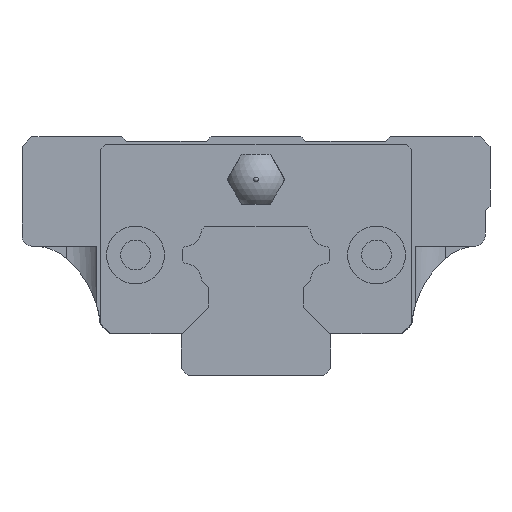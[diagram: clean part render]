
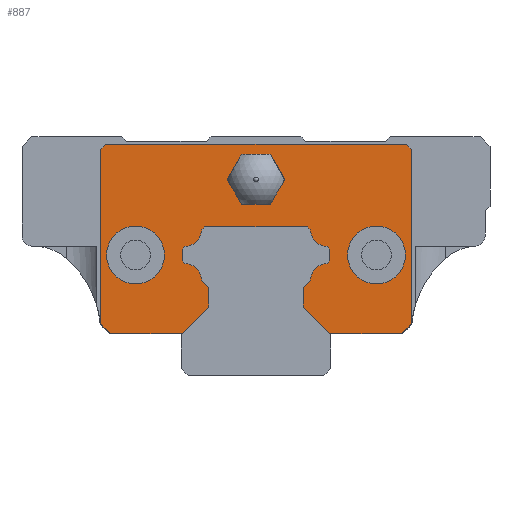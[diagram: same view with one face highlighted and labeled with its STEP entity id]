
A CAD part, front view. The second image highlights one B-rep face of the part: STEP entity #887.
In plain terms, the highlighted planar face has unit normal (0, -1, 0).
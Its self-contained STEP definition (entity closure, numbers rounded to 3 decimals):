
#215=PLANE('',#2910);
#363=LINE('',#4071,#635);
#367=LINE('',#4079,#639);
#370=LINE('',#4085,#642);
#373=LINE('',#4091,#645);
#377=LINE('',#4103,#649);
#380=LINE('',#4109,#652);
#383=LINE('',#4115,#655);
#387=LINE('',#4127,#659);
#390=LINE('',#4133,#662);
#393=LINE('',#4139,#665);
#397=LINE('',#4151,#669);
#400=LINE('',#4157,#672);
#403=LINE('',#4163,#675);
#407=LINE('',#4175,#679);
#410=LINE('',#4181,#682);
#413=LINE('',#4187,#685);
#418=LINE('',#4196,#690);
#440=LINE('',#4268,#712);
#442=LINE('',#4272,#714);
#444=LINE('',#4276,#716);
#446=LINE('',#4280,#718);
#448=LINE('',#4284,#720);
#449=LINE('',#4286,#721);
#451=LINE('',#4290,#723);
#635=VECTOR('',#3254,1.);
#639=VECTOR('',#3260,1.);
#642=VECTOR('',#3265,1.);
#645=VECTOR('',#3270,1.);
#649=VECTOR('',#3282,1.);
#652=VECTOR('',#3287,1.);
#655=VECTOR('',#3292,1.);
#659=VECTOR('',#3304,1.);
#662=VECTOR('',#3309,1.);
#665=VECTOR('',#3314,1.);
#669=VECTOR('',#3326,1.);
#672=VECTOR('',#3331,1.);
#675=VECTOR('',#3336,1.);
#679=VECTOR('',#3348,1.);
#682=VECTOR('',#3353,1.);
#685=VECTOR('',#3358,1.);
#690=VECTOR('',#3365,1.);
#712=VECTOR('',#3449,1.);
#714=VECTOR('',#3453,1.);
#716=VECTOR('',#3457,1.);
#718=VECTOR('',#3461,1.);
#720=VECTOR('',#3465,1.);
#721=VECTOR('',#3468,1.);
#723=VECTOR('',#3472,1.);
#887=ADVANCED_FACE('',(#1094,#1095,#1031),#215,.F.);
#1031=FACE_OUTER_BOUND('',#1240,.T.);
#1094=FACE_BOUND('',#1238,.T.);
#1095=FACE_BOUND('',#1239,.T.);
#1238=EDGE_LOOP('',(#1779));
#1239=EDGE_LOOP('',(#1780));
#1240=EDGE_LOOP('',(#1781,#1782,#1783,#1784,#1785,#1786,#1787,#1788,#1789,
#1790,#1791,#1792,#1793,#1794,#1795,#1796,#1797,#1798,#1799,#1800,#1801,
#1802,#1803,#1804,#1805,#1806,#1807,#1808));
#1779=ORIENTED_EDGE('',*,*,#2574,.F.);
#1780=ORIENTED_EDGE('',*,*,#2575,.F.);
#1781=ORIENTED_EDGE('',*,*,#2562,.F.);
#1782=ORIENTED_EDGE('',*,*,#2573,.T.);
#1783=ORIENTED_EDGE('',*,*,#2571,.T.);
#1784=ORIENTED_EDGE('',*,*,#2531,.T.);
#1785=ORIENTED_EDGE('',*,*,#2526,.T.);
#1786=ORIENTED_EDGE('',*,*,#2523,.F.);
#1787=ORIENTED_EDGE('',*,*,#2520,.F.);
#1788=ORIENTED_EDGE('',*,*,#2517,.T.);
#1789=ORIENTED_EDGE('',*,*,#2514,.F.);
#1790=ORIENTED_EDGE('',*,*,#2511,.F.);
#1791=ORIENTED_EDGE('',*,*,#2508,.T.);
#1792=ORIENTED_EDGE('',*,*,#2505,.T.);
#1793=ORIENTED_EDGE('',*,*,#2502,.T.);
#1794=ORIENTED_EDGE('',*,*,#2499,.T.);
#1795=ORIENTED_EDGE('',*,*,#2496,.F.);
#1796=ORIENTED_EDGE('',*,*,#2493,.T.);
#1797=ORIENTED_EDGE('',*,*,#2490,.F.);
#1798=ORIENTED_EDGE('',*,*,#2487,.T.);
#1799=ORIENTED_EDGE('',*,*,#2484,.T.);
#1800=ORIENTED_EDGE('',*,*,#2481,.T.);
#1801=ORIENTED_EDGE('',*,*,#2478,.T.);
#1802=ORIENTED_EDGE('',*,*,#2475,.T.);
#1803=ORIENTED_EDGE('',*,*,#2472,.F.);
#1804=ORIENTED_EDGE('',*,*,#2468,.T.);
#1805=ORIENTED_EDGE('',*,*,#2570,.T.);
#1806=ORIENTED_EDGE('',*,*,#2568,.F.);
#1807=ORIENTED_EDGE('',*,*,#2566,.F.);
#1808=ORIENTED_EDGE('',*,*,#2564,.F.);
#2175=VERTEX_POINT('',#4070);
#2176=VERTEX_POINT('',#4072);
#2179=VERTEX_POINT('',#4080);
#2181=VERTEX_POINT('',#4086);
#2183=VERTEX_POINT('',#4092);
#2185=VERTEX_POINT('',#4098);
#2187=VERTEX_POINT('',#4104);
#2189=VERTEX_POINT('',#4110);
#2191=VERTEX_POINT('',#4116);
#2193=VERTEX_POINT('',#4122);
#2195=VERTEX_POINT('',#4128);
#2197=VERTEX_POINT('',#4134);
#2199=VERTEX_POINT('',#4140);
#2201=VERTEX_POINT('',#4146);
#2203=VERTEX_POINT('',#4152);
#2205=VERTEX_POINT('',#4158);
#2207=VERTEX_POINT('',#4164);
#2209=VERTEX_POINT('',#4170);
#2211=VERTEX_POINT('',#4176);
#2213=VERTEX_POINT('',#4182);
#2215=VERTEX_POINT('',#4188);
#2218=VERTEX_POINT('',#4197);
#2232=VERTEX_POINT('',#4267);
#2233=VERTEX_POINT('',#4269);
#2234=VERTEX_POINT('',#4273);
#2235=VERTEX_POINT('',#4277);
#2236=VERTEX_POINT('',#4281);
#2237=VERTEX_POINT('',#4287);
#2238=VERTEX_POINT('',#4293);
#2239=VERTEX_POINT('',#4295);
#2468=EDGE_CURVE('',#2176,#2175,#363,.T.);
#2472=EDGE_CURVE('',#2176,#2179,#367,.T.);
#2475=EDGE_CURVE('',#2181,#2179,#370,.T.);
#2478=EDGE_CURVE('',#2183,#2181,#373,.T.);
#2481=EDGE_CURVE('',#2185,#2183,#2718,.T.);
#2484=EDGE_CURVE('',#2187,#2185,#377,.T.);
#2487=EDGE_CURVE('',#2189,#2187,#380,.T.);
#2490=EDGE_CURVE('',#2189,#2191,#383,.T.);
#2493=EDGE_CURVE('',#2193,#2191,#2720,.T.);
#2496=EDGE_CURVE('',#2193,#2195,#387,.T.);
#2499=EDGE_CURVE('',#2197,#2195,#390,.T.);
#2502=EDGE_CURVE('',#2199,#2197,#393,.T.);
#2505=EDGE_CURVE('',#2201,#2199,#2722,.T.);
#2508=EDGE_CURVE('',#2203,#2201,#397,.T.);
#2511=EDGE_CURVE('',#2203,#2205,#400,.T.);
#2514=EDGE_CURVE('',#2205,#2207,#403,.T.);
#2517=EDGE_CURVE('',#2209,#2207,#2724,.T.);
#2520=EDGE_CURVE('',#2209,#2211,#407,.T.);
#2523=EDGE_CURVE('',#2211,#2213,#410,.T.);
#2526=EDGE_CURVE('',#2215,#2213,#413,.T.);
#2531=EDGE_CURVE('',#2218,#2215,#418,.T.);
#2562=EDGE_CURVE('',#2232,#2233,#440,.T.);
#2564=EDGE_CURVE('',#2233,#2234,#442,.T.);
#2566=EDGE_CURVE('',#2234,#2235,#444,.T.);
#2568=EDGE_CURVE('',#2235,#2236,#446,.T.);
#2570=EDGE_CURVE('',#2175,#2236,#448,.T.);
#2571=EDGE_CURVE('',#2237,#2218,#449,.T.);
#2573=EDGE_CURVE('',#2232,#2237,#451,.T.);
#2574=EDGE_CURVE('',#2238,#2238,#2734,.T.);
#2575=EDGE_CURVE('',#2239,#2239,#2735,.T.);
#2718=CIRCLE('',#2846,1.8);
#2720=CIRCLE('',#2852,1.8);
#2722=CIRCLE('',#2858,1.8);
#2724=CIRCLE('',#2864,1.8);
#2734=CIRCLE('',#2908,2.9);
#2735=CIRCLE('',#2909,2.9);
#2846=AXIS2_PLACEMENT_3D('',#4097,#3275,#3276);
#2852=AXIS2_PLACEMENT_3D('',#4121,#3297,#3298);
#2858=AXIS2_PLACEMENT_3D('',#4145,#3319,#3320);
#2864=AXIS2_PLACEMENT_3D('',#4169,#3341,#3342);
#2908=AXIS2_PLACEMENT_3D('',#4292,#3475,#3476);
#2909=AXIS2_PLACEMENT_3D('',#4294,#3477,#3478);
#2910=AXIS2_PLACEMENT_3D('',#4296,#3479,#3480);
#3254=DIRECTION('',(1.,0.,0.));
#3260=DIRECTION('',(-0.707,0.,0.707));
#3265=DIRECTION('',(0.,0.,-1.));
#3270=DIRECTION('',(-0.707,0.,-0.707));
#3275=DIRECTION('',(0.,-1.,0.));
#3276=DIRECTION('',(1.,0.,0.));
#3282=DIRECTION('',(-0.707,0.,-0.707));
#3287=DIRECTION('',(0.,0.,-1.));
#3292=DIRECTION('',(-0.707,0.,0.707));
#3297=DIRECTION('',(0.,-1.,0.));
#3298=DIRECTION('',(1.,0.,0.));
#3304=DIRECTION('',(-0.707,0.,0.707));
#3309=DIRECTION('',(1.,0.,0.));
#3314=DIRECTION('',(0.707,0.,0.707));
#3319=DIRECTION('',(0.,-1.,0.));
#3320=DIRECTION('',(1.,0.,0.));
#3326=DIRECTION('',(0.707,0.,0.707));
#3331=DIRECTION('',(0.,0.,-1.));
#3336=DIRECTION('',(0.707,0.,-0.707));
#3341=DIRECTION('',(0.,-1.,0.));
#3342=DIRECTION('',(1.,0.,0.));
#3348=DIRECTION('',(0.707,0.,-0.707));
#3353=DIRECTION('',(0.,0.,-1.));
#3358=DIRECTION('',(0.707,0.,0.707));
#3365=DIRECTION('',(1.,0.,0.));
#3449=DIRECTION('',(0.707,0.,0.707));
#3453=DIRECTION('',(1.,0.,0.));
#3457=DIRECTION('',(0.707,0.,-0.707));
#3461=DIRECTION('',(0.,0.,-1.));
#3465=DIRECTION('',(0.707,0.,0.707));
#3468=DIRECTION('',(0.707,0.,-0.707));
#3472=DIRECTION('',(0.,0.,-1.));
#3475=DIRECTION('',(0.,-1.,0.));
#3476=DIRECTION('',(0.,0.,-1.));
#3477=DIRECTION('',(0.,-1.,0.));
#3478=DIRECTION('',(0.,0.,-1.));
#3479=DIRECTION('',(0.,1.,0.));
#3480=DIRECTION('',(0.,0.,-1.));
#4070=CARTESIAN_POINT('',(14.6,-43.6,-19.65));
#4071=CARTESIAN_POINT('',(7.401,-43.6,-19.65));
#4072=CARTESIAN_POINT('',(7.401,-43.6,-19.65));
#4079=CARTESIAN_POINT('',(7.401,-43.6,-19.65));
#4080=CARTESIAN_POINT('',(4.73,-43.6,-16.979));
#4085=CARTESIAN_POINT('',(4.73,-43.6,-15.021));
#4086=CARTESIAN_POINT('',(4.73,-43.6,-15.021));
#4091=CARTESIAN_POINT('',(5.447,-43.6,-14.304));
#4092=CARTESIAN_POINT('',(5.447,-43.6,-14.304));
#4097=CARTESIAN_POINT('',(7.245,-43.6,-14.395));
#4098=CARTESIAN_POINT('',(7.154,-43.6,-12.597));
#4103=CARTESIAN_POINT('',(7.43,-43.6,-12.321));
#4104=CARTESIAN_POINT('',(7.43,-43.6,-12.321));
#4109=CARTESIAN_POINT('',(7.43,-43.6,-11.179));
#4110=CARTESIAN_POINT('',(7.43,-43.6,-11.179));
#4115=CARTESIAN_POINT('',(7.43,-43.6,-11.179));
#4116=CARTESIAN_POINT('',(7.154,-43.6,-10.903));
#4121=CARTESIAN_POINT('',(7.245,-43.6,-9.105));
#4122=CARTESIAN_POINT('',(5.447,-43.6,-9.196));
#4127=CARTESIAN_POINT('',(5.447,-43.6,-9.196));
#4128=CARTESIAN_POINT('',(5.171,-43.6,-8.92));
#4133=CARTESIAN_POINT('',(-5.171,-43.6,-8.92));
#4134=CARTESIAN_POINT('',(-5.171,-43.6,-8.92));
#4139=CARTESIAN_POINT('',(-5.447,-43.6,-9.196));
#4140=CARTESIAN_POINT('',(-5.447,-43.6,-9.196));
#4145=CARTESIAN_POINT('',(-7.245,-43.6,-9.105));
#4146=CARTESIAN_POINT('',(-7.154,-43.6,-10.903));
#4151=CARTESIAN_POINT('',(-7.43,-43.6,-11.179));
#4152=CARTESIAN_POINT('',(-7.43,-43.6,-11.179));
#4157=CARTESIAN_POINT('',(-7.43,-43.6,-11.179));
#4158=CARTESIAN_POINT('',(-7.43,-43.6,-12.321));
#4163=CARTESIAN_POINT('',(-7.43,-43.6,-12.321));
#4164=CARTESIAN_POINT('',(-7.154,-43.6,-12.597));
#4169=CARTESIAN_POINT('',(-7.245,-43.6,-14.395));
#4170=CARTESIAN_POINT('',(-5.447,-43.6,-14.304));
#4175=CARTESIAN_POINT('',(-5.447,-43.6,-14.304));
#4176=CARTESIAN_POINT('',(-4.73,-43.6,-15.021));
#4181=CARTESIAN_POINT('',(-4.73,-43.6,-15.021));
#4182=CARTESIAN_POINT('',(-4.73,-43.6,-16.979));
#4187=CARTESIAN_POINT('',(-7.401,-43.6,-19.65));
#4188=CARTESIAN_POINT('',(-7.401,-43.6,-19.65));
#4196=CARTESIAN_POINT('',(-14.6,-43.6,-19.65));
#4197=CARTESIAN_POINT('',(-14.6,-43.6,-19.65));
#4267=CARTESIAN_POINT('',(-15.6,-43.6,-1.15));
#4268=CARTESIAN_POINT('',(-15.6,-43.6,-1.15));
#4269=CARTESIAN_POINT('',(-15.1,-43.6,-0.65));
#4272=CARTESIAN_POINT('',(-15.1,-43.6,-0.65));
#4273=CARTESIAN_POINT('',(15.1,-43.6,-0.65));
#4276=CARTESIAN_POINT('',(15.1,-43.6,-0.65));
#4277=CARTESIAN_POINT('',(15.6,-43.6,-1.15));
#4280=CARTESIAN_POINT('',(15.6,-43.6,-1.15));
#4281=CARTESIAN_POINT('',(15.6,-43.6,-18.65));
#4284=CARTESIAN_POINT('',(14.6,-43.6,-19.65));
#4286=CARTESIAN_POINT('',(-15.6,-43.6,-18.65));
#4287=CARTESIAN_POINT('',(-15.6,-43.6,-18.65));
#4290=CARTESIAN_POINT('',(-15.6,-43.6,-1.15));
#4292=CARTESIAN_POINT('',(12.1,-43.6,-11.75));
#4293=CARTESIAN_POINT('',(12.1,-43.6,-14.65));
#4294=CARTESIAN_POINT('',(-12.1,-43.6,-11.75));
#4295=CARTESIAN_POINT('',(-12.1,-43.6,-14.65));
#4296=CARTESIAN_POINT('',(7.245,-43.6,-14.395));
